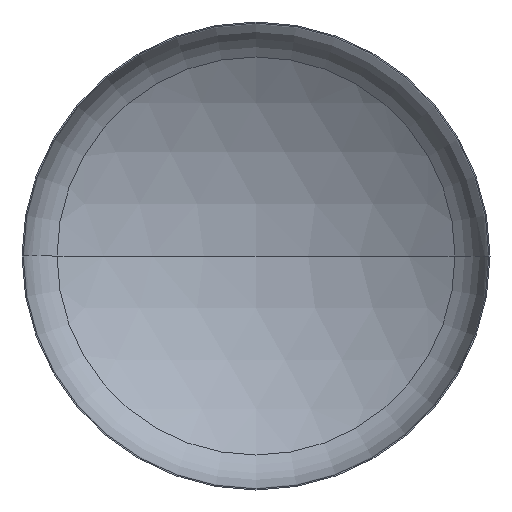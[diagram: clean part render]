
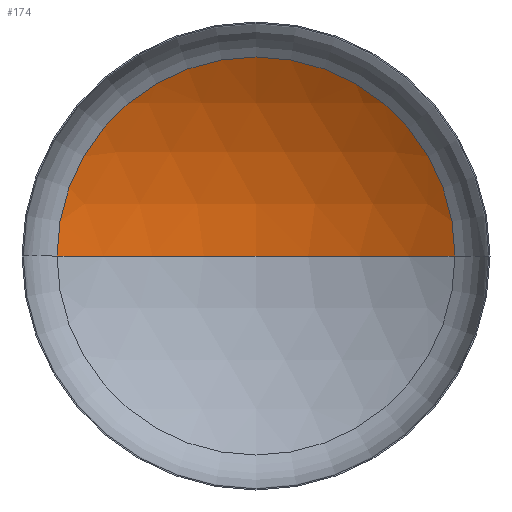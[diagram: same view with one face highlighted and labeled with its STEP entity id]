
A CAD part, front view. The second image highlights one B-rep face of the part: STEP entity #174.
In plain terms, the highlighted spherical face has radius 1920 mm.
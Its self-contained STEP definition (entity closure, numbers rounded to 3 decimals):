
#2 = VERTEX_POINT ( 'NONE', #246 ) ;
#7 = DIRECTION ( 'NONE',  ( -1., 0., 0. ) ) ;
#11 = DIRECTION ( 'NONE',  ( -1., 0., 0. ) ) ;
#17 = AXIS2_PLACEMENT_3D ( 'NONE', #249, #255, #7 ) ;
#19 = DIRECTION ( 'NONE',  ( 0., 0., -1. ) ) ;
#25 = EDGE_LOOP ( 'NONE', ( #113, #103, #45 ) ) ;
#27 = AXIS2_PLACEMENT_3D ( 'NONE', #405, #253, #271 ) ;
#29 = CARTESIAN_POINT ( 'NONE',  ( 0., -1292.831, 0. ) ) ;
#32 = AXIS2_PLACEMENT_3D ( 'NONE', #29, #19, #11 ) ;
#33 = AXIS2_PLACEMENT_3D ( 'NONE', #198, #199, #200 ) ;
#45 = ORIENTED_EDGE ( 'NONE', *, *, #81, .T. ) ;
#68 = VERTEX_POINT ( 'NONE', #243 ) ;
#81 = EDGE_CURVE ( 'NONE', #68, #125, #180, .T. ) ;
#90 = EDGE_CURVE ( 'NONE', #2, #68, #294, .T. ) ;
#91 = EDGE_CURVE ( 'NONE', #2, #125, #240, .T. ) ;
#103 = ORIENTED_EDGE ( 'NONE', *, *, #90, .T. ) ;
#113 = ORIENTED_EDGE ( 'NONE', *, *, #91, .F. ) ;
#125 = VERTEX_POINT ( 'NONE', #291 ) ;
#174 = ADVANCED_FACE ( 'NONE', ( #247 ), #285, .F. ) ;
#180 = CIRCLE ( 'NONE', #33, 1020.697 ) ;
#198 = CARTESIAN_POINT ( 'NONE',  ( 0., 333.385, 0. ) ) ;
#199 = DIRECTION ( 'NONE',  ( 0., -1., 0. ) ) ;
#200 = DIRECTION ( 'NONE',  ( 1., 0., 0. ) ) ;
#240 = CIRCLE ( 'NONE', #27, 1920. ) ;
#243 = CARTESIAN_POINT ( 'NONE',  ( 1020.697, 333.385, 0. ) ) ;
#246 = CARTESIAN_POINT ( 'NONE',  ( 0., 627.169, 0. ) ) ;
#247 = FACE_OUTER_BOUND ( 'NONE', #25, .T. ) ;
#249 = CARTESIAN_POINT ( 'NONE',  ( 0., -1292.831, 0. ) ) ;
#253 = DIRECTION ( 'NONE',  ( 0., 0., 1. ) ) ;
#255 = DIRECTION ( 'NONE',  ( 0., 0., -1. ) ) ;
#271 = DIRECTION ( 'NONE',  ( 1., 0., 0. ) ) ;
#285 = SPHERICAL_SURFACE ( 'NONE', #17, 1920. ) ;
#291 = CARTESIAN_POINT ( 'NONE',  ( -1020.697, 333.385, 0. ) ) ;
#294 = CIRCLE ( 'NONE', #32, 1920. ) ;
#405 = CARTESIAN_POINT ( 'NONE',  ( 0., -1292.831, 0. ) ) ;
